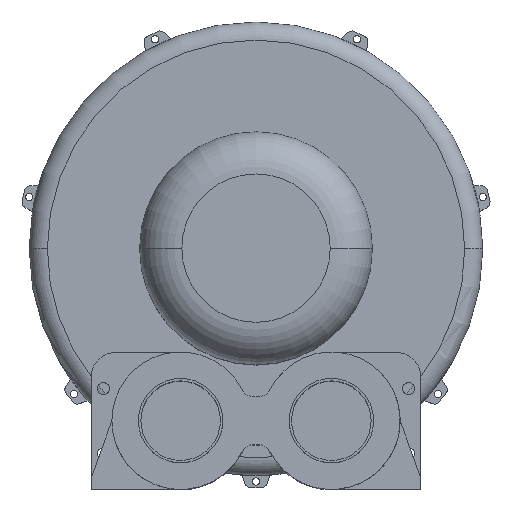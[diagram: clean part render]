
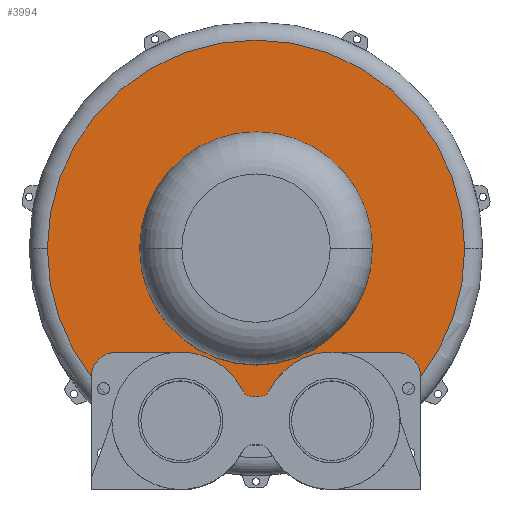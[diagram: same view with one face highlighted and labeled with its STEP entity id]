
A CAD part, top view. The second image highlights one B-rep face of the part: STEP entity #3994.
In plain terms, the highlighted planar face has unit normal (0, 0, 1).
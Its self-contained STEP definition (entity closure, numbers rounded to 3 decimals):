
#7 = ORIENTED_EDGE ( 'NONE', *, *, #1047, .F. ) ;
#54 = CARTESIAN_POINT ( 'NONE',  ( 62.5, -86., 60. ) ) ;
#64 = EDGE_CURVE ( 'NONE', #2000, #1731, #1130, .T. ) ;
#68 = VERTEX_POINT ( 'NONE', #1157 ) ;
#83 = CIRCLE ( 'NONE', #1972, 10. ) ;
#143 = CARTESIAN_POINT ( 'NONE',  ( 0., 0., 60. ) ) ;
#173 = CIRCLE ( 'NONE', #2195, 57. ) ;
#182 = LINE ( 'NONE', #482, #4092 ) ;
#193 = DIRECTION ( 'NONE',  ( 1., 0., 0. ) ) ;
#275 = CARTESIAN_POINT ( 'NONE',  ( 2.592, -113., 60. ) ) ;
#294 = CARTESIAN_POINT ( 'NONE',  ( -116.5, -86., 60. ) ) ;
#313 = EDGE_CURVE ( 'NONE', #4180, #4124, #2294, .T. ) ;
#336 = ORIENTED_EDGE ( 'NONE', *, *, #1133, .F. ) ;
#339 = EDGE_CURVE ( 'NONE', #1645, #1390, #173, .T. ) ;
#342 = LINE ( 'NONE', #3033, #2237 ) ;
#363 = CIRCLE ( 'NONE', #3105, 96.5 ) ;
#410 = VERTEX_POINT ( 'NONE', #1762 ) ;
#463 = ORIENTED_EDGE ( 'NONE', *, *, #339, .F. ) ;
#482 = CARTESIAN_POINT ( 'NONE',  ( 116.5, -86., 60. ) ) ;
#494 = AXIS2_PLACEMENT_3D ( 'NONE', #1576, #1542, #1520 ) ;
#517 = EDGE_CURVE ( 'NONE', #1731, #1583, #2352, .T. ) ;
#526 = DIRECTION ( 'NONE',  ( 1., 0., 0. ) ) ;
#568 = AXIS2_PLACEMENT_3D ( 'NONE', #927, #3575, #1323 ) ;
#632 = VECTOR ( 'NONE', #2734, 1000. ) ;
#633 = CARTESIAN_POINT ( 'NONE',  ( -116.5, -106., 60. ) ) ;
#658 = DIRECTION ( 'NONE',  ( 1., 0., 0. ) ) ;
#659 = DIRECTION ( 'NONE',  ( 1., 0., 0. ) ) ;
#680 = DIRECTION ( 'NONE',  ( 0., 0., 1. ) ) ;
#707 = VERTEX_POINT ( 'NONE', #2786 ) ;
#740 = VERTEX_POINT ( 'NONE', #1698 ) ;
#781 = ORIENTED_EDGE ( 'NONE', *, *, #313, .F. ) ;
#832 = CARTESIAN_POINT ( 'NONE',  ( 136.5, -106.286, 60. ) ) ;
#908 = ORIENTED_EDGE ( 'NONE', *, *, #2448, .F. ) ;
#927 = CARTESIAN_POINT ( 'NONE',  ( 0., 0., 60. ) ) ;
#1047 = EDGE_CURVE ( 'NONE', #2366, #410, #2892, .T. ) ;
#1090 = ORIENTED_EDGE ( 'NONE', *, *, #1449, .F. ) ;
#1130 = CIRCLE ( 'NONE', #494, 173. ) ;
#1132 = FACE_OUTER_BOUND ( 'NONE', #1716, .T. ) ;
#1133 = EDGE_CURVE ( 'NONE', #2567, #2762, #2531, .T. ) ;
#1157 = CARTESIAN_POINT ( 'NONE',  ( -2.592, -123., 60. ) ) ;
#1164 = ORIENTED_EDGE ( 'NONE', *, *, #3766, .F. ) ;
#1200 = CARTESIAN_POINT ( 'NONE',  ( 136.5, -106., 60. ) ) ;
#1243 = VERTEX_POINT ( 'NONE', #2368 ) ;
#1282 = DIRECTION ( 'NONE',  ( 0., 0., -1. ) ) ;
#1323 = DIRECTION ( 'NONE',  ( 1., 0., 0. ) ) ;
#1383 = ORIENTED_EDGE ( 'NONE', *, *, #2263, .T. ) ;
#1390 = VERTEX_POINT ( 'NONE', #2470 ) ;
#1418 = CARTESIAN_POINT ( 'NONE',  ( -96.5, 0., 60. ) ) ;
#1449 = EDGE_CURVE ( 'NONE', #4124, #1243, #2227, .T. ) ;
#1457 = AXIS2_PLACEMENT_3D ( 'NONE', #633, #4332, #2061 ) ;
#1471 = EDGE_CURVE ( 'NONE', #1390, #740, #83, .T. ) ;
#1483 = ORIENTED_EDGE ( 'NONE', *, *, #3752, .F. ) ;
#1512 = AXIS2_PLACEMENT_3D ( 'NONE', #3671, #2930, #658 ) ;
#1520 = DIRECTION ( 'NONE',  ( 1., 0., 0. ) ) ;
#1524 = CARTESIAN_POINT ( 'NONE',  ( 0., 0., 60. ) ) ;
#1542 = DIRECTION ( 'NONE',  ( 0., 0., 1. ) ) ;
#1576 = CARTESIAN_POINT ( 'NONE',  ( 0., 0., 60. ) ) ;
#1583 = VERTEX_POINT ( 'NONE', #1921 ) ;
#1630 = CARTESIAN_POINT ( 'NONE',  ( 136.5, -200., 60. ) ) ;
#1645 = VERTEX_POINT ( 'NONE', #54 ) ;
#1655 = CARTESIAN_POINT ( 'NONE',  ( -62.5, -143., 60. ) ) ;
#1688 = CIRCLE ( 'NONE', #4727, 173. ) ;
#1698 = CARTESIAN_POINT ( 'NONE',  ( 2.592, -123., 60. ) ) ;
#1716 = EDGE_LOOP ( 'NONE', ( #2848, #3435, #1383, #1090, #781, #3620, #1164, #3122, #1843, #4527, #463, #1483, #7, #908 ) ) ;
#1731 = VERTEX_POINT ( 'NONE', #2752 ) ;
#1735 = VERTEX_POINT ( 'NONE', #3148 ) ;
#1752 = CIRCLE ( 'NONE', #2172, 10. ) ;
#1762 = CARTESIAN_POINT ( 'NONE',  ( 116.5, -86., 60. ) ) ;
#1778 = DIRECTION ( 'NONE',  ( 0., -1., 0. ) ) ;
#1843 = ORIENTED_EDGE ( 'NONE', *, *, #2060, .F. ) ;
#1858 = AXIS2_PLACEMENT_3D ( 'NONE', #1655, #4290, #2036 ) ;
#1901 = DIRECTION ( 'NONE',  ( 1., 0., 0. ) ) ;
#1921 = CARTESIAN_POINT ( 'NONE',  ( -173., 0., 60. ) ) ;
#1971 = LINE ( 'NONE', #1630, #4853 ) ;
#1972 = AXIS2_PLACEMENT_3D ( 'NONE', #275, #2931, #659 ) ;
#2000 = VERTEX_POINT ( 'NONE', #832 ) ;
#2036 = DIRECTION ( 'NONE',  ( -1., 0., 0. ) ) ;
#2060 = EDGE_CURVE ( 'NONE', #740, #68, #4525, .T. ) ;
#2061 = DIRECTION ( 'NONE',  ( 1., 0., 0. ) ) ;
#2128 = DIRECTION ( 'NONE',  ( 0., 0., 1. ) ) ;
#2172 = AXIS2_PLACEMENT_3D ( 'NONE', #3533, #1282, #3928 ) ;
#2195 = AXIS2_PLACEMENT_3D ( 'NONE', #4711, #2451, #193 ) ;
#2227 = LINE ( 'NONE', #4767, #3113 ) ;
#2237 = VECTOR ( 'NONE', #4900, 1000. ) ;
#2263 = EDGE_CURVE ( 'NONE', #1583, #1243, #1688, .T. ) ;
#2294 = CIRCLE ( 'NONE', #1457, 20. ) ;
#2352 = CIRCLE ( 'NONE', #568, 173. ) ;
#2366 = VERTEX_POINT ( 'NONE', #1200 ) ;
#2368 = CARTESIAN_POINT ( 'NONE',  ( -136.5, -106.286, 60. ) ) ;
#2448 = EDGE_CURVE ( 'NONE', #2000, #2366, #1971, .T. ) ;
#2451 = DIRECTION ( 'NONE',  ( 0., 0., 1. ) ) ;
#2470 = CARTESIAN_POINT ( 'NONE',  ( 11.533, -117.478, 60. ) ) ;
#2531 = CIRCLE ( 'NONE', #3167, 96.5 ) ;
#2554 = EDGE_CURVE ( 'NONE', #2762, #2567, #363, .T. ) ;
#2567 = VERTEX_POINT ( 'NONE', #2774 ) ;
#2734 = DIRECTION ( 'NONE',  ( -1., 0., 0. ) ) ;
#2752 = CARTESIAN_POINT ( 'NONE',  ( 173., 0., 60. ) ) ;
#2762 = VERTEX_POINT ( 'NONE', #1418 ) ;
#2774 = CARTESIAN_POINT ( 'NONE',  ( 96.5, 0., 60. ) ) ;
#2786 = CARTESIAN_POINT ( 'NONE',  ( -62.5, -86., 60. ) ) ;
#2793 = DIRECTION ( 'NONE',  ( 0., 0., 1. ) ) ;
#2848 = ORIENTED_EDGE ( 'NONE', *, *, #64, .T. ) ;
#2892 = CIRCLE ( 'NONE', #4281, 20. ) ;
#2910 = PLANE ( 'NONE',  #1512 ) ;
#2923 = EDGE_CURVE ( 'NONE', #68, #1735, #1752, .T. ) ;
#2930 = DIRECTION ( 'NONE',  ( 0., 0., 1. ) ) ;
#2931 = DIRECTION ( 'NONE',  ( 0., 0., -1. ) ) ;
#2946 = CARTESIAN_POINT ( 'NONE',  ( 0., 0., 60. ) ) ;
#3033 = CARTESIAN_POINT ( 'NONE',  ( -62.5, -86., 60. ) ) ;
#3080 = CIRCLE ( 'NONE', #1858, 57. ) ;
#3105 = AXIS2_PLACEMENT_3D ( 'NONE', #143, #2793, #526 ) ;
#3113 = VECTOR ( 'NONE', #1778, 1000. ) ;
#3122 = ORIENTED_EDGE ( 'NONE', *, *, #2923, .F. ) ;
#3135 = FACE_BOUND ( 'NONE', #4821, .T. ) ;
#3148 = CARTESIAN_POINT ( 'NONE',  ( -11.533, -117.478, 60. ) ) ;
#3167 = AXIS2_PLACEMENT_3D ( 'NONE', #2946, #680, #3333 ) ;
#3333 = DIRECTION ( 'NONE',  ( 1., 0., 0. ) ) ;
#3435 = ORIENTED_EDGE ( 'NONE', *, *, #517, .T. ) ;
#3509 = CARTESIAN_POINT ( 'NONE',  ( 2.592, -123., 60. ) ) ;
#3533 = CARTESIAN_POINT ( 'NONE',  ( -2.592, -113., 60. ) ) ;
#3575 = DIRECTION ( 'NONE',  ( 0., 0., 1. ) ) ;
#3620 = ORIENTED_EDGE ( 'NONE', *, *, #4370, .F. ) ;
#3671 = CARTESIAN_POINT ( 'NONE',  ( 0., 0., 60. ) ) ;
#3752 = EDGE_CURVE ( 'NONE', #410, #1645, #182, .T. ) ;
#3766 = EDGE_CURVE ( 'NONE', #1735, #707, #3080, .T. ) ;
#3900 = DIRECTION ( 'NONE',  ( -1., 0., 0. ) ) ;
#3928 = DIRECTION ( 'NONE',  ( -1., 0., 0. ) ) ;
#3994 = ADVANCED_FACE ( 'NONE', ( #3135, #1132 ), #2910, .T. ) ;
#4092 = VECTOR ( 'NONE', #3900, 1000. ) ;
#4124 = VERTEX_POINT ( 'NONE', #4513 ) ;
#4160 = DIRECTION ( 'NONE',  ( 0., 0., 1. ) ) ;
#4180 = VERTEX_POINT ( 'NONE', #294 ) ;
#4199 = ORIENTED_EDGE ( 'NONE', *, *, #2554, .F. ) ;
#4259 = DIRECTION ( 'NONE',  ( 0., 1., 0. ) ) ;
#4281 = AXIS2_PLACEMENT_3D ( 'NONE', #4392, #2128, #4761 ) ;
#4290 = DIRECTION ( 'NONE',  ( 0., 0., 1. ) ) ;
#4332 = DIRECTION ( 'NONE',  ( 0., 0., 1. ) ) ;
#4370 = EDGE_CURVE ( 'NONE', #707, #4180, #342, .T. ) ;
#4392 = CARTESIAN_POINT ( 'NONE',  ( 116.5, -106., 60. ) ) ;
#4513 = CARTESIAN_POINT ( 'NONE',  ( -136.5, -106., 60. ) ) ;
#4525 = LINE ( 'NONE', #3509, #632 ) ;
#4527 = ORIENTED_EDGE ( 'NONE', *, *, #1471, .F. ) ;
#4711 = CARTESIAN_POINT ( 'NONE',  ( 62.5, -143., 60. ) ) ;
#4727 = AXIS2_PLACEMENT_3D ( 'NONE', #1524, #4160, #1901 ) ;
#4761 = DIRECTION ( 'NONE',  ( 1., 0., 0. ) ) ;
#4767 = CARTESIAN_POINT ( 'NONE',  ( -136.5, -106., 60. ) ) ;
#4821 = EDGE_LOOP ( 'NONE', ( #4199, #336 ) ) ;
#4853 = VECTOR ( 'NONE', #4259, 1000. ) ;
#4900 = DIRECTION ( 'NONE',  ( -1., 0., 0. ) ) ;
